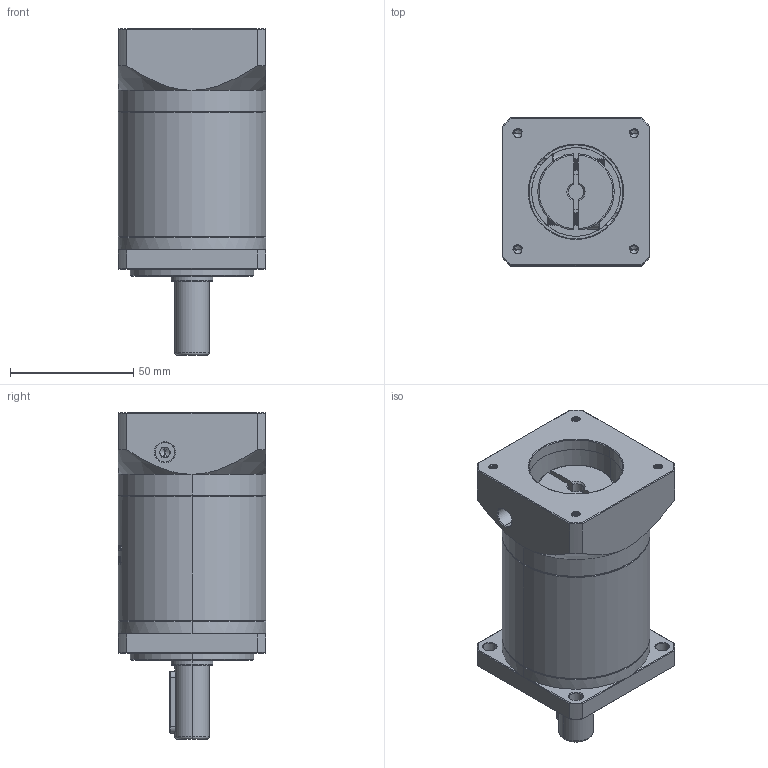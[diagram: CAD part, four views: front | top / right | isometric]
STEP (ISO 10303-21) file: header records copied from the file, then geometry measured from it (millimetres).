
FILE_DESCRIPTION (( 'STEP AP214' ), '1' );
FILE_NAME ('ZF60-D14-L2-6.35-38.1-47.14X47.14-M4.STEP', '2022-04-17T11:22:28', ( '' ), ( 'Microsoft' ), 'SwSTEP 2.0', 'SolidWorks 2016', '' );
FILE_SCHEMA (( 'AUTOMOTIVE_DESIGN' ));
Length unit declared in the file: millimetre
Products named in the file (1): ZF60-D14-L2-6.35-38.1-47.14X47.14-M4
Bounding box: 60 x 60 x 132.5 mm (x, y, z)
Volume: 276007.9 mm3; surface area: 47018.7 mm2
Topology: 6 solids, 6 shells, 1617 faces, 4370 edges, 2829 vertices
Faces by surface type: plane 744, cylinder 327, bspline 299, cone 227, torus 20
Entity records: 88826 total; most frequent: CARTESIAN_POINT 34071, ORIENTED_EDGE 8712, DIRECTION 6396, EDGE_CURVE 4356, VERTEX_POINT 2829, VECTOR 2210, LINE 2210, AXIS2_PLACEMENT_3D 2093
